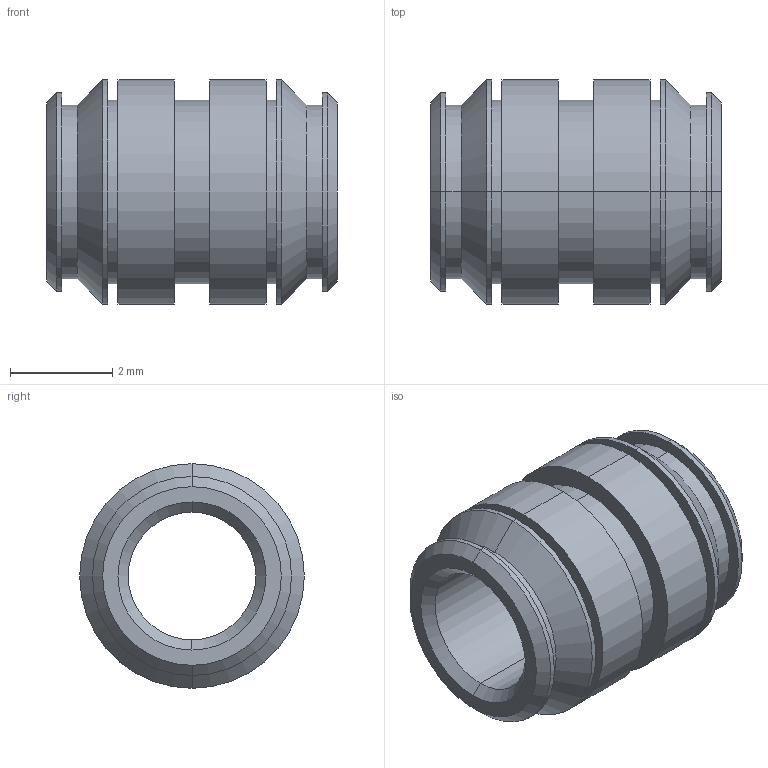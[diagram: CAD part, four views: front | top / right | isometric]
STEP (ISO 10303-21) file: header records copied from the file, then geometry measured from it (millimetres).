
FILE_DESCRIPTION (( 'STEP AP203' ), '1' );
FILE_NAME ('FSUK-DUO-M03-S.STEP', '2021-04-15T09:11:33', ( '' ), ( '' ), 'SwSTEP 2.0', 'SolidWorks 2021', '' );
FILE_SCHEMA (( 'CONFIG_CONTROL_DESIGN' ));
Length unit declared in the file: millimetre
Products named in the file (1): FSUK-DUO-M03-S
Bounding box: 5.7 x 4.4 x 4.4 mm (x, y, z)
Volume: 43.5 mm3; surface area: 166.7 mm2
Topology: 1 solids, 1 shells, 46 faces, 92 edges, 56 vertices
Faces by surface type: cylinder 24, cone 12, plane 10
Entity records: 1285 total; most frequent: DIRECTION 242, CARTESIAN_POINT 195, ORIENTED_EDGE 184, AXIS2_PLACEMENT_3D 103, EDGE_CURVE 92, CIRCLE 56, VERTEX_POINT 56, EDGE_LOOP 56
